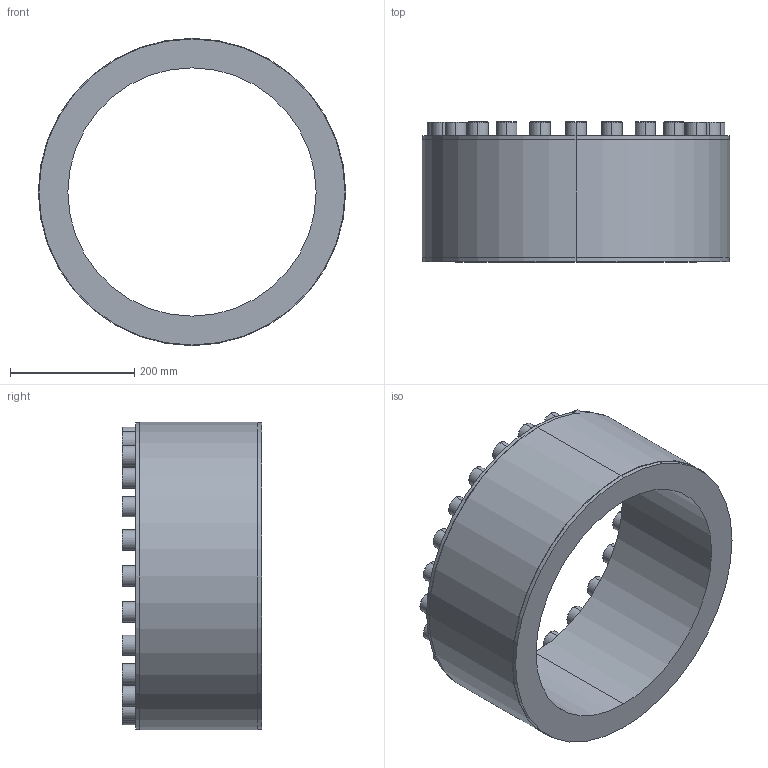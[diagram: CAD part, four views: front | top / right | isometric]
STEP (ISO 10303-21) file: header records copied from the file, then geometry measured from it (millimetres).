
FILE_DESCRIPTION (( 'STEP AP203' ), '1' );
FILE_NAME ('PL-D1 400-495.STEP', '2021-10-23T00:26:19', ( '' ), ( '' ), 'SwSTEP 2.0', 'SolidWorks 2018', '' );
FILE_SCHEMA (( 'CONFIG_CONTROL_DESIGN' ));
Length unit declared in the file: millimetre
Products named in the file (1): PL-D1 400-495
Bounding box: 495 x 225 x 495 mm (x, y, z)
Volume: 13921246.7 mm3; surface area: 774004.9 mm2
Topology: 1 solids, 1 shells, 300 faces, 696 edges, 448 vertices
Faces by surface type: plane 196, cylinder 56, torus 48
Entity records: 8565 total; most frequent: DIRECTION 1506, CARTESIAN_POINT 1445, ORIENTED_EDGE 1392, EDGE_CURVE 696, AXIS2_PLACEMENT_3D 509, VECTOR 488, LINE 488, VERTEX_POINT 448
